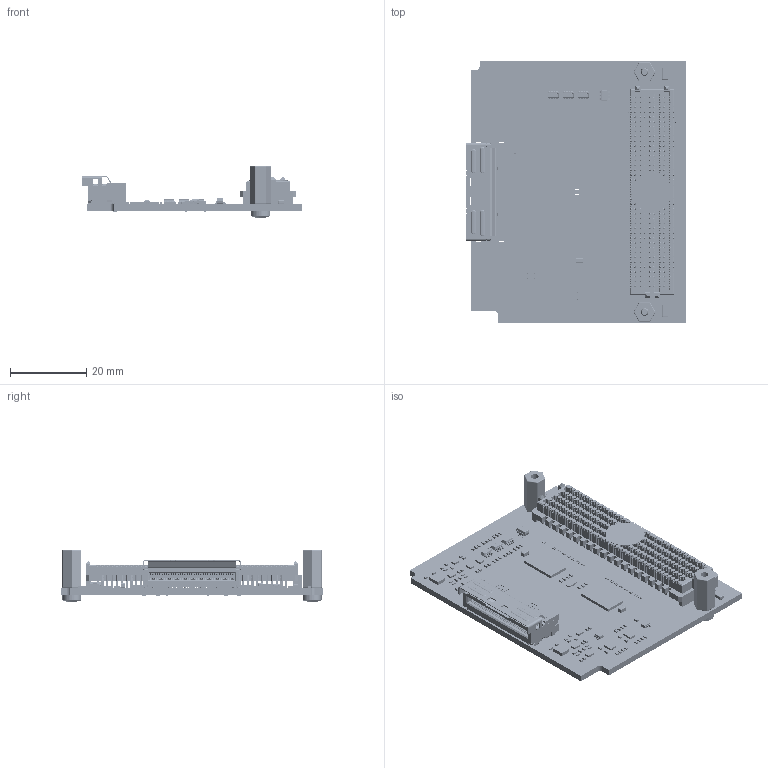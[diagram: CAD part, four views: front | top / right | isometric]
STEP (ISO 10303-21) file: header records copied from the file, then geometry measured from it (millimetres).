
FILE_DESCRIPTION(('Open CASCADE Model'),'2;1');
FILE_NAME('Open CASCADE Shape Model','2026-02-17T08:51:15',('Author'),( 'Open CASCADE'),'Open CASCADE STEP processor 7.5','Open CASCADE 7.5' ,'Unknown');
FILE_SCHEMA(('AUTOMOTIVE_DESIGN { 1 0 10303 214 1 1 1 1 }'));
Length unit declared in the file: millimetre
Products named in the file (278): PCB; Board; Open CASCADE STEP translator 7.5 1.1.1; R49; RC0402FR-07226RL; R48; R39; R38; U22; 7136247664; Extruded; 7136248064; 7136242864; U21; U20; U19; U17; U15; 7136245424; U14; U13; U8; 7136246624; R47; R46; R45; R44; R43; R42; R41; R37; R36; R25; R24; R23; R22; C100; User Library-CAPC_0402; User Library-CAPC_0402_CAPC_0402_Lead_1; User Library-CAPC_0402_CAPC_0402_Body_1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
Assembly tree (544 placements, depth 5):
  PCB
    Board
      Open CASCADE STEP translator 7.5 1.1.1
    R49
      RC0402FR-07226RL
    R48
      RC0402FR-07226RL
    R39
      RC0402FR-07226RL
    R38
      RC0402FR-07226RL
    U22
      7136247664  x6
        Extruded
      7136248064  x4
        Extruded
      7136242864
        Extruded
    U21
      7136247664  x6
        Extruded
      7136248064  x4
        Extruded
      7136242864
        Extruded
    U20
      7136247664  x6
        Extruded
      7136248064  x4
        Extruded
      7136242864
        Extruded
    U19
      7136242864
        Extruded
      7136248064  x4
        Extruded
      7136247664  x6
        Extruded
    U17
      7136247664  x6
        Extruded
      7136248064  x4
        Extruded
      7136242864
        Extruded
    U15
      7136248064  x6
        Extruded
      7136247664  x4
        Extruded
      7136245424
        Extruded
    U14
      7136242864
        Extruded
      7136248064  x4
        Extruded
      7136247664  x6
        Extruded
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Bounding box: 57.78 x 69 x 13.7 mm (x, y, z)
Volume: 10678.2 mm3; surface area: 21636.2 mm2
Topology: 669 solids, 669 shells, 24757 faces, 64830 edges, 41980 vertices
Faces by surface type: plane 18718, cylinder 5068, sphere 486, bspline 430, cone 38, torus 17
Full cylindrical faces by diameter (mm): 1.118 x1, 1.15 x2, 1.3 x2, 1.75 x1, 2.7 x2, 10.262 x1
Entity records: 569459 total; most frequent: CARTESIAN_POINT 117507, ORIENTED_EDGE 95130, DIRECTION 86483, EDGE_CURVE 47565, LINE 36993, VECTOR 36993, VERTEX_POINT 31267, AXIS2_PLACEMENT_3D 24745
